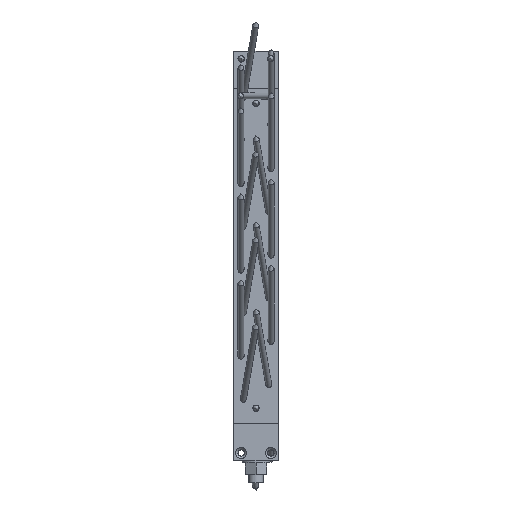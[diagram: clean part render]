
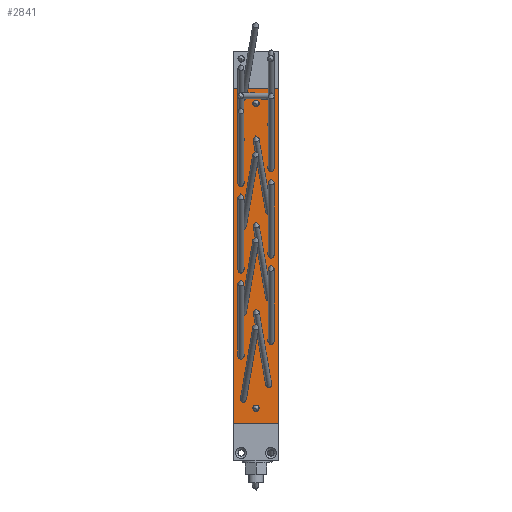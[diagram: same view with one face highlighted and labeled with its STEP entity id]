
A CAD part, top view. The second image highlights one B-rep face of the part: STEP entity #2841.
In plain terms, the highlighted planar face has unit normal (0, 0, 1) as drawn and (0, 0, -1) by its records, which use the part's own axes.
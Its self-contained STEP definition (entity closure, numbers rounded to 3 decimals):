
#320=CIRCLE('',#3331,4.25);
#321=CIRCLE('',#3332,4.25);
#418=ELLIPSE('',#3315,6.103,4.25);
#419=ELLIPSE('',#3316,6.103,4.25);
#420=ELLIPSE('',#3317,6.103,4.25);
#421=ELLIPSE('',#3318,6.01,4.25);
#422=ELLIPSE('',#3319,6.01,4.25);
#423=ELLIPSE('',#3320,6.103,4.25);
#424=ELLIPSE('',#3321,6.103,4.25);
#425=ELLIPSE('',#3322,6.01,4.25);
#426=ELLIPSE('',#3323,6.01,4.25);
#427=ELLIPSE('',#3324,6.103,4.25);
#428=ELLIPSE('',#3325,6.103,4.25);
#429=ELLIPSE('',#3326,4.316,4.25);
#430=ELLIPSE('',#3327,6.01,4.25);
#431=ELLIPSE('',#3328,6.01,4.25);
#432=ELLIPSE('',#3329,6.01,4.25);
#433=ELLIPSE('',#3330,6.01,4.25);
#525=ORIENTED_EDGE('',*,*,#1181,.F.);
#526=ORIENTED_EDGE('',*,*,#1182,.F.);
#527=ORIENTED_EDGE('',*,*,#1183,.F.);
#528=ORIENTED_EDGE('',*,*,#1184,.F.);
#529=ORIENTED_EDGE('',*,*,#1185,.F.);
#530=ORIENTED_EDGE('',*,*,#1186,.F.);
#531=ORIENTED_EDGE('',*,*,#1187,.F.);
#532=ORIENTED_EDGE('',*,*,#1188,.F.);
#533=ORIENTED_EDGE('',*,*,#1189,.F.);
#534=ORIENTED_EDGE('',*,*,#1190,.F.);
#535=ORIENTED_EDGE('',*,*,#1191,.F.);
#536=ORIENTED_EDGE('',*,*,#1192,.F.);
#537=ORIENTED_EDGE('',*,*,#1193,.F.);
#538=ORIENTED_EDGE('',*,*,#1194,.F.);
#539=ORIENTED_EDGE('',*,*,#1195,.F.);
#540=ORIENTED_EDGE('',*,*,#1196,.F.);
#541=ORIENTED_EDGE('',*,*,#1197,.F.);
#542=ORIENTED_EDGE('',*,*,#1198,.F.);
#543=ORIENTED_EDGE('',*,*,#1199,.F.);
#544=ORIENTED_EDGE('',*,*,#1200,.T.);
#545=ORIENTED_EDGE('',*,*,#1201,.T.);
#546=ORIENTED_EDGE('',*,*,#1179,.F.);
#1179=EDGE_CURVE('',#1504,#1505,#1753,.T.);
#1181=EDGE_CURVE('',#1506,#1506,#418,.T.);
#1182=EDGE_CURVE('',#1507,#1507,#419,.T.);
#1183=EDGE_CURVE('',#1508,#1508,#420,.T.);
#1184=EDGE_CURVE('',#1509,#1509,#421,.T.);
#1185=EDGE_CURVE('',#1510,#1510,#422,.T.);
#1186=EDGE_CURVE('',#1511,#1511,#423,.T.);
#1187=EDGE_CURVE('',#1512,#1512,#424,.T.);
#1188=EDGE_CURVE('',#1513,#1513,#425,.T.);
#1189=EDGE_CURVE('',#1514,#1514,#426,.T.);
#1190=EDGE_CURVE('',#1515,#1515,#427,.T.);
#1191=EDGE_CURVE('',#1516,#1516,#428,.T.);
#1192=EDGE_CURVE('',#1517,#1517,#429,.T.);
#1193=EDGE_CURVE('',#1518,#1518,#430,.T.);
#1194=EDGE_CURVE('',#1519,#1519,#431,.T.);
#1195=EDGE_CURVE('',#1520,#1520,#432,.T.);
#1196=EDGE_CURVE('',#1521,#1521,#433,.T.);
#1197=EDGE_CURVE('',#1522,#1522,#320,.T.);
#1198=EDGE_CURVE('',#1523,#1523,#321,.T.);
#1199=EDGE_CURVE('',#1524,#1504,#1755,.T.);
#1200=EDGE_CURVE('',#1524,#1525,#1756,.T.);
#1201=EDGE_CURVE('',#1525,#1505,#1757,.T.);
#1504=VERTEX_POINT('',#4681);
#1505=VERTEX_POINT('',#4683);
#1506=VERTEX_POINT('',#4687);
#1507=VERTEX_POINT('',#4689);
#1508=VERTEX_POINT('',#4691);
#1509=VERTEX_POINT('',#4693);
#1510=VERTEX_POINT('',#4695);
#1511=VERTEX_POINT('',#4697);
#1512=VERTEX_POINT('',#4699);
#1513=VERTEX_POINT('',#4701);
#1514=VERTEX_POINT('',#4703);
#1515=VERTEX_POINT('',#4705);
#1516=VERTEX_POINT('',#4707);
#1517=VERTEX_POINT('',#4709);
#1518=VERTEX_POINT('',#4711);
#1519=VERTEX_POINT('',#4713);
#1520=VERTEX_POINT('',#4715);
#1521=VERTEX_POINT('',#4717);
#1522=VERTEX_POINT('',#4719);
#1523=VERTEX_POINT('',#4721);
#1524=VERTEX_POINT('',#4723);
#1525=VERTEX_POINT('',#4725);
#1753=LINE('',#4682,#1965);
#1755=LINE('',#4722,#1967);
#1756=LINE('',#4724,#1968);
#1757=LINE('',#4726,#1969);
#1965=VECTOR('',#3743,1000.);
#1967=VECTOR('',#3783,1000.);
#1968=VECTOR('',#3784,1000.);
#1969=VECTOR('',#3785,1000.);
#2153=EDGE_LOOP('',(#525));
#2154=EDGE_LOOP('',(#526));
#2155=EDGE_LOOP('',(#527));
#2156=EDGE_LOOP('',(#528));
#2157=EDGE_LOOP('',(#529));
#2158=EDGE_LOOP('',(#530));
#2159=EDGE_LOOP('',(#531));
#2160=EDGE_LOOP('',(#532));
#2161=EDGE_LOOP('',(#533));
#2162=EDGE_LOOP('',(#534));
#2163=EDGE_LOOP('',(#535));
#2164=EDGE_LOOP('',(#536));
#2165=EDGE_LOOP('',(#537));
#2166=EDGE_LOOP('',(#538));
#2167=EDGE_LOOP('',(#539));
#2168=EDGE_LOOP('',(#540));
#2169=EDGE_LOOP('',(#541));
#2170=EDGE_LOOP('',(#542));
#2171=EDGE_LOOP('',(#543,#544,#545,#546));
#2461=FACE_BOUND('',#2153,.T.);
#2462=FACE_BOUND('',#2154,.T.);
#2463=FACE_BOUND('',#2155,.T.);
#2464=FACE_BOUND('',#2156,.T.);
#2465=FACE_BOUND('',#2157,.T.);
#2466=FACE_BOUND('',#2158,.T.);
#2467=FACE_BOUND('',#2159,.T.);
#2468=FACE_BOUND('',#2160,.T.);
#2469=FACE_BOUND('',#2161,.T.);
#2470=FACE_BOUND('',#2162,.T.);
#2471=FACE_BOUND('',#2163,.T.);
#2472=FACE_BOUND('',#2164,.T.);
#2473=FACE_BOUND('',#2165,.T.);
#2474=FACE_BOUND('',#2166,.T.);
#2475=FACE_BOUND('',#2167,.T.);
#2476=FACE_BOUND('',#2168,.T.);
#2477=FACE_BOUND('',#2169,.T.);
#2478=FACE_BOUND('',#2170,.T.);
#2479=FACE_BOUND('',#2171,.T.);
#2751=PLANE('',#3314);
#2841=ADVANCED_FACE('',(#2461,#2462,#2463,#2464,#2465,#2466,#2467,#2468,
#2469,#2470,#2471,#2472,#2473,#2474,#2475,#2476,#2477,#2478,#2479),#2751,
 .T.);
#3314=AXIS2_PLACEMENT_3D('',#4685,#3745,#3746);
#3315=AXIS2_PLACEMENT_3D('',#4686,#3747,#3748);
#3316=AXIS2_PLACEMENT_3D('',#4688,#3749,#3750);
#3317=AXIS2_PLACEMENT_3D('',#4690,#3751,#3752);
#3318=AXIS2_PLACEMENT_3D('',#4692,#3753,#3754);
#3319=AXIS2_PLACEMENT_3D('',#4694,#3755,#3756);
#3320=AXIS2_PLACEMENT_3D('',#4696,#3757,#3758);
#3321=AXIS2_PLACEMENT_3D('',#4698,#3759,#3760);
#3322=AXIS2_PLACEMENT_3D('',#4700,#3761,#3762);
#3323=AXIS2_PLACEMENT_3D('',#4702,#3763,#3764);
#3324=AXIS2_PLACEMENT_3D('',#4704,#3765,#3766);
#3325=AXIS2_PLACEMENT_3D('',#4706,#3767,#3768);
#3326=AXIS2_PLACEMENT_3D('',#4708,#3769,#3770);
#3327=AXIS2_PLACEMENT_3D('',#4710,#3771,#3772);
#3328=AXIS2_PLACEMENT_3D('',#4712,#3773,#3774);
#3329=AXIS2_PLACEMENT_3D('',#4714,#3775,#3776);
#3330=AXIS2_PLACEMENT_3D('',#4716,#3777,#3778);
#3331=AXIS2_PLACEMENT_3D('',#4718,#3779,#3780);
#3332=AXIS2_PLACEMENT_3D('',#4720,#3781,#3782);
#3743=DIRECTION('',(0.,-1.,0.));
#3745=DIRECTION('',(0.,0.,-1.));
#3746=DIRECTION('',(-1.,0.,0.));
#3747=DIRECTION('',(0.,0.,-1.));
#3748=DIRECTION('',(-0.171,0.985,0.));
#3749=DIRECTION('',(0.,0.,-1.));
#3750=DIRECTION('',(-0.171,0.985,0.));
#3751=DIRECTION('',(0.,0.,-1.));
#3752=DIRECTION('',(0.171,0.985,0.));
#3753=DIRECTION('',(0.,0.,-1.));
#3754=DIRECTION('',(0.,1.,0.));
#3755=DIRECTION('',(0.,0.,-1.));
#3756=DIRECTION('',(0.,1.,0.));
#3757=DIRECTION('',(0.,0.,-1.));
#3758=DIRECTION('',(-0.171,0.985,0.));
#3759=DIRECTION('',(0.,0.,-1.));
#3760=DIRECTION('',(0.171,0.985,0.));
#3761=DIRECTION('',(0.,0.,-1.));
#3762=DIRECTION('',(0.,1.,0.));
#3763=DIRECTION('',(0.,0.,-1.));
#3764=DIRECTION('',(0.,1.,0.));
#3765=DIRECTION('',(0.,0.,-1.));
#3766=DIRECTION('',(0.171,0.985,0.));
#3767=DIRECTION('',(0.,0.,-1.));
#3768=DIRECTION('',(-0.171,0.985,0.));
#3769=DIRECTION('',(0.,0.,-1.));
#3770=DIRECTION('',(1.,0.,0.));
#3771=DIRECTION('',(0.,0.,-1.));
#3772=DIRECTION('',(0.,1.,0.));
#3773=DIRECTION('',(0.,0.,-1.));
#3774=DIRECTION('',(0.,1.,0.));
#3775=DIRECTION('',(0.,0.,-1.));
#3776=DIRECTION('',(0.,1.,0.));
#3777=DIRECTION('',(0.,0.,-1.));
#3778=DIRECTION('',(0.,1.,0.));
#3779=DIRECTION('',(0.,0.,-1.));
#3780=DIRECTION('',(-1.,0.,0.));
#3781=DIRECTION('',(0.,0.,-1.));
#3782=DIRECTION('',(-1.,0.,0.));
#3783=DIRECTION('',(-1.,0.,0.));
#3784=DIRECTION('',(0.,-1.,0.));
#3785=DIRECTION('',(-1.,0.,0.));
#4681=CARTESIAN_POINT('',(0.,470.,0.));
#4682=CARTESIAN_POINT('',(0.,490.,0.));
#4683=CARTESIAN_POINT('',(0.,20.,0.));
#4685=CARTESIAN_POINT('',(0.,490.,0.));
#4686=CARTESIAN_POINT('',(13.277,29.687,0.));
#4687=CARTESIAN_POINT('',(12.232,35.7,0.));
#4688=CARTESIAN_POINT('',(13.277,435.694,0.));
#4689=CARTESIAN_POINT('',(12.232,441.707,0.));
#4690=CARTESIAN_POINT('',(46.723,415.69,0.));
#4691=CARTESIAN_POINT('',(47.768,421.703,0.));
#4692=CARTESIAN_POINT('',(50.25,358.,0.));
#4693=CARTESIAN_POINT('',(50.25,364.01,0.));
#4694=CARTESIAN_POINT('',(9.75,378.,0.));
#4695=CARTESIAN_POINT('',(9.75,384.01,0.));
#4696=CARTESIAN_POINT('',(13.277,319.693,0.));
#4697=CARTESIAN_POINT('',(12.232,325.706,0.));
#4698=CARTESIAN_POINT('',(46.723,299.704,0.));
#4699=CARTESIAN_POINT('',(47.768,305.717,0.));
#4700=CARTESIAN_POINT('',(50.25,242.,0.));
#4701=CARTESIAN_POINT('',(50.25,248.01,0.));
#4702=CARTESIAN_POINT('',(9.75,262.,0.));
#4703=CARTESIAN_POINT('',(9.75,268.01,0.));
#4704=CARTESIAN_POINT('',(46.723,183.695,0.));
#4705=CARTESIAN_POINT('',(47.768,189.708,0.));
#4706=CARTESIAN_POINT('',(13.277,203.692,0.));
#4707=CARTESIAN_POINT('',(12.232,209.705,0.));
#4708=CARTESIAN_POINT('',(46.723,30.,0.));
#4709=CARTESIAN_POINT('',(51.039,30.,0.));
#4710=CARTESIAN_POINT('',(9.75,146.,0.));
#4711=CARTESIAN_POINT('',(9.75,152.01,0.));
#4712=CARTESIAN_POINT('',(50.25,126.,0.));
#4713=CARTESIAN_POINT('',(50.25,132.01,0.));
#4714=CARTESIAN_POINT('',(50.25,68.,0.));
#4715=CARTESIAN_POINT('',(50.25,74.01,0.));
#4716=CARTESIAN_POINT('',(9.75,88.,0.));
#4717=CARTESIAN_POINT('',(9.75,94.01,0.));
#4718=CARTESIAN_POINT('',(30.,450.,0.));
#4719=CARTESIAN_POINT('',(25.75,450.,0.));
#4720=CARTESIAN_POINT('',(30.,40.,0.));
#4721=CARTESIAN_POINT('',(25.75,40.,0.));
#4722=CARTESIAN_POINT('',(100.,470.,0.));
#4723=CARTESIAN_POINT('',(60.,470.,0.));
#4724=CARTESIAN_POINT('',(60.,490.,0.));
#4725=CARTESIAN_POINT('',(60.,20.,0.));
#4726=CARTESIAN_POINT('',(357.205,20.,0.));
